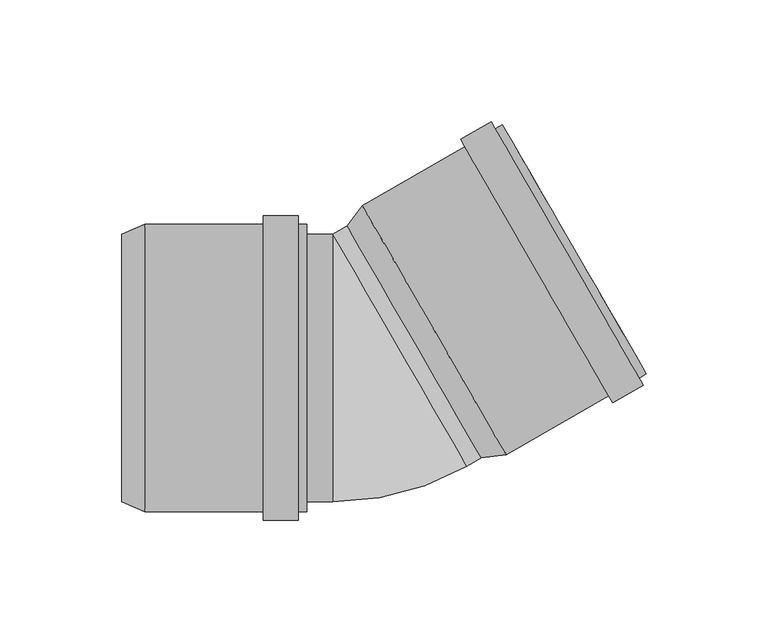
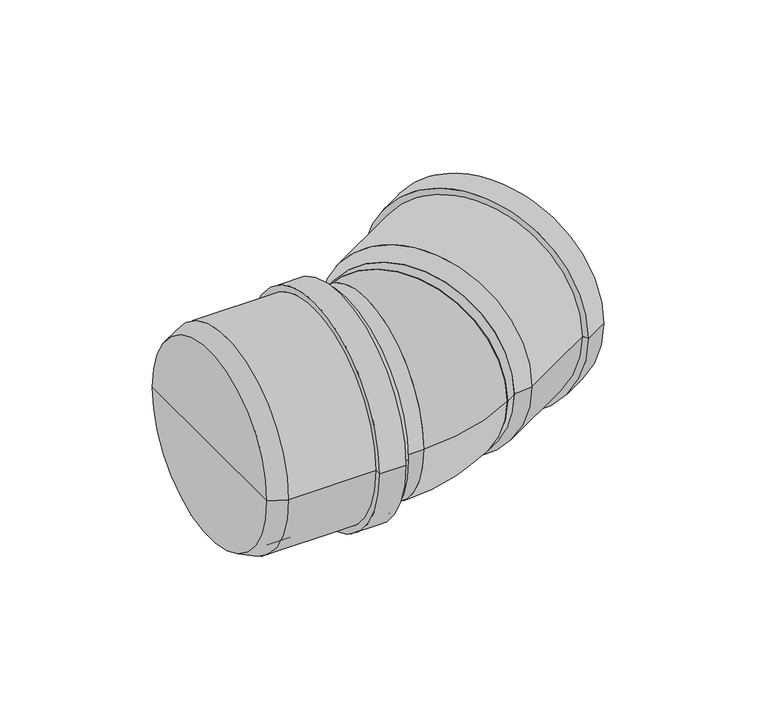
"""IFC4 building model written with IfcOpenShell, lengths in millimetres: pipe fitting geometry, pf_HTB : pf_HTB."""

from ifc_helpers import new_model, si_unit, point, frame, origin, origin_2d, place, context, project, spatial, polyline, circle_curve, ellipse_curve, trimmed, segment, composite_curve, outline, extrude, source, transform, mapped, element, save
from ifc_brep_helpers import plane_surface, cylinder_surface, revolved_surface, advanced_brep


def pipe_fitting_7f82ed09(model_context):
    return source(origin(), model_context, "Body", "SolidModel", [
        advanced_brep(
        [(46.1195462, -36.8813972, 0.0), (-8.8804538, 58.3813972, 0.0), (-2.7032125, 66.6821014, 0.0), (56.3967875, -35.6821014, 0.0), (18.6195462, 10.75, 0.0), (113.9874769, -2.4321014, 0.0), (54.8874769, 99.9321014, 0.0), (56.9374769, 96.3813972, 0.0), (111.9374769, 1.1186028, 0.0), (111.0429905, -4.1321014, 0.0), (51.9429905, 98.2321014, 0.0), (112.7429905, -7.0765877, 0.0), (50.2429905, 101.1765877, 0.0), (100.1856221, -14.3265877, 0.0), (37.6856221, 93.9265877, 0.0), (98.4856221, -11.3821014, 0.0), (39.3856221, 90.9821014, 0.0), (54.3467875, -32.1313972, 0.0), (-0.6532125, 63.1313972, 0.0), (26.8467875, 15.5, 0.0)],
        [
            (0, 1, circle_curve(frame((18.6195462, 10.75, 0.0), z_axis=(0.8660254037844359, 0.5000000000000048, 0.0), x_axis=(-0.5000000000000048, 0.8660254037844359, 0.0)), 55.0)),
            (1, 2),
            (2, 3, circle_curve(frame((26.8467875, 15.5, 0.0), z_axis=(-0.8660254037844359, -0.5000000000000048, 0.0), x_axis=(-0.5000000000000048, 0.8660254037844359, 0.0)), 59.1)),
            (3, 0),
            (1, 0, circle_curve(frame((18.6195462, 10.75, 0.0), z_axis=(0.8660254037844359, 0.5000000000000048, 0.0), x_axis=(-0.5000000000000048, 0.8660254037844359, 0.0)), 55.0)),
            (3, 2, circle_curve(frame((26.8467875, 15.5, 0.0), z_axis=(-0.8660254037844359, -0.5000000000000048, 0.0), x_axis=(-0.5000000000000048, 0.8660254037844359, 0.0)), 59.1)),
            (4, 1),
            (0, 4),
            (5, 6, circle_curve(frame((84.4374769, 48.75, 0.0), z_axis=(0.8660254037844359, 0.5000000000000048, 0.0), x_axis=(-0.5000000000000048, 0.8660254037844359, 0.0)), 59.1)),
            (6, 7),
            (7, 8, circle_curve(frame((84.4374769, 48.75, 0.0), z_axis=(-0.8660254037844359, -0.5000000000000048, 0.0), x_axis=(-0.5000000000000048, 0.8660254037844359, 0.0)), 55.0)),
            (8, 5),
            (6, 5, circle_curve(frame((84.4374769, 48.75, 0.0), z_axis=(0.8660254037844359, 0.5000000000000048, 0.0), x_axis=(-0.5000000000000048, 0.8660254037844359, 0.0)), 59.1)),
            (8, 7, circle_curve(frame((84.4374769, 48.75, 0.0), z_axis=(-0.8660254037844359, -0.5000000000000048, 0.0), x_axis=(-0.5000000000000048, 0.8660254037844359, 0.0)), 55.0)),
            (9, 10, circle_curve(frame((81.4929905, 47.05, 0.0), z_axis=(0.8660254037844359, 0.5000000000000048, 0.0), x_axis=(-0.5000000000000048, 0.8660254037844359, 0.0)), 59.1)),
            (10, 6),
            (5, 9),
            (10, 9, circle_curve(frame((81.4929905, 47.05, 0.0), z_axis=(0.8660254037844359, 0.5000000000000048, 0.0), x_axis=(-0.5000000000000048, 0.8660254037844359, 0.0)), 59.1)),
            (11, 12, circle_curve(frame((81.4929905, 47.05, 0.0), z_axis=(0.8660254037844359, 0.5000000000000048, 0.0), x_axis=(-0.5000000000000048, 0.8660254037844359, 0.0)), 62.5)),
            (12, 10),
            (9, 11),
            (12, 11, circle_curve(frame((81.4929905, 47.05, 0.0), z_axis=(0.8660254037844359, 0.5000000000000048, 0.0), x_axis=(-0.5000000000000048, 0.8660254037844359, 0.0)), 62.5)),
            (13, 14, circle_curve(frame((68.9356221, 39.8, 0.0), z_axis=(0.8660254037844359, 0.5000000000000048, 0.0), x_axis=(-0.5000000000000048, 0.8660254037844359, 0.0)), 62.5)),
            (14, 12),
            (11, 13),
            (14, 13, circle_curve(frame((68.9356221, 39.8, 0.0), z_axis=(0.8660254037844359, 0.5000000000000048, 0.0), x_axis=(-0.5000000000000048, 0.8660254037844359, 0.0)), 62.5)),
            (15, 16, circle_curve(frame((68.9356221, 39.8, 0.0), z_axis=(0.8660254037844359, 0.5000000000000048, 0.0), x_axis=(-0.5000000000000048, 0.8660254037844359, 0.0)), 59.1)),
            (16, 14),
            (13, 15),
            (16, 15, circle_curve(frame((68.9356221, 39.8, 0.0), z_axis=(0.8660254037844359, 0.5000000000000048, 0.0), x_axis=(-0.5000000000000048, 0.8660254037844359, 0.0)), 59.1)),
            (2, 16),
            (15, 3),
            (17, 18, circle_curve(frame((26.8467875, 15.5, 0.0), z_axis=(0.8660254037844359, 0.5000000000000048, 0.0), x_axis=(-0.5000000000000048, 0.8660254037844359, 0.0)), 55.0)),
            (18, 19),
            (19, 17),
            (18, 17, circle_curve(frame((26.8467875, 15.5, 0.0), z_axis=(0.8660254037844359, 0.5000000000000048, 0.0), x_axis=(-0.5000000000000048, 0.8660254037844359, 0.0)), 55.0)),
            (7, 18),
            (17, 8),
        ],
        [
            revolved_surface(polyline([(-2.7032125, 66.6821014, 0.0), (-8.8804538, 58.3813972, 0.0)]), (18.6195462, 10.75, 0.0), (-0.8660254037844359, -0.5000000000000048, 0.0)),
            plane_surface(frame((18.6195462, 10.75, 0.0), z_axis=(-0.8660254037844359, -0.5000000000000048, 0.0), x_axis=(-0.5000000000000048, 0.8660254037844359, 0.0))),
            plane_surface(frame((84.4374769, 48.75, 0.0), z_axis=(0.8660254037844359, 0.5000000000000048, 0.0), x_axis=(-0.5000000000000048, 0.8660254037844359, 0.0))),
            cylinder_surface(frame((18.6195462, 10.75, 0.0), z_axis=(-0.8660254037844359, -0.5000000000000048, 0.0), x_axis=(-0.5000000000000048, 0.8660254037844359, 0.0)), 59.1),
            plane_surface(frame((81.4929905, 47.05, 0.0), z_axis=(0.8660254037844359, 0.5000000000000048, 0.0), x_axis=(-0.5000000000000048, 0.8660254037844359, 0.0))),
            cylinder_surface(frame((18.6195462, 10.75, 0.0), z_axis=(-0.8660254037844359, -0.5000000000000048, 0.0), x_axis=(-0.5000000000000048, 0.8660254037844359, 0.0)), 62.5),
            plane_surface(frame((68.9356221, 39.8, 0.0), z_axis=(-0.8660254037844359, -0.5000000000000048, 0.0), x_axis=(-0.5000000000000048, 0.8660254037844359, 0.0))),
            plane_surface(frame((26.8467875, 15.5, 0.0), z_axis=(0.8660254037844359, 0.5000000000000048, 0.0), x_axis=(-0.5000000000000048, 0.8660254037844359, 0.0))),
            revolved_surface(polyline([(-0.6532124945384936, 63.1313971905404, 0.0), (56.93747690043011, 96.38139721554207, 0.0)]), (18.6195462, 10.75, 0.0), (-0.8660254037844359, -0.5000000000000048, 0.0)),
        ],
        [
            (0, [[1, 2, 3, 4]]),
            (0, [[5, -4, 6, -2]]),
            (1, [[7, -1, 8]]),
            (1, [[-8, -5, -7]]),
            (2, [[9, 10, 11, 12]]),
            (2, [[13, -12, 14, -10]]),
            (3, [[15, 16, -9, 17]]),
            (3, [[18, -17, -13, -16]]),
            (4, [[19, 20, -15, 21]]),
            (4, [[22, -21, -18, -20]]),
            (5, [[23, 24, -19, 25]]),
            (5, [[26, -25, -22, -24]]),
            (6, [[27, 28, -23, 29]]),
            (6, [[30, -29, -26, -28]]),
            (3, [[-3, 31, -27, 32]]),
            (3, [[-6, -32, -30, -31]]),
            (7, [[33, 34, 35]]),
            (7, [[36, -35, -34]]),
            (8, [[-11, 37, -33, 38]]),
            (8, [[-14, -38, -36, -37]]),
        ],
    ),
        advanced_brep(
        [(-101.5, -55.0, 0.0), (-101.5, 55.0, 0.0), (-92.0, 59.1, 0.0), (-92.0, -59.1, 0.0), (-101.5, 0.0, 0.0), (-25.5, -59.1, 0.0), (-25.5, 59.1, 0.0), (-25.5, 55.0, 0.0), (-25.5, -55.0, 0.0), (-28.9, -59.1, 0.0), (-28.9, 59.1, 0.0), (-28.9, -62.5, 0.0), (-28.9, 62.5, 0.0), (-43.4, -62.5, 0.0), (-43.4, 62.5, 0.0), (-43.4, -59.1, 0.0), (-43.4, 59.1, 0.0), (-92.0, -55.0, 0.0), (-92.0, 55.0, 0.0), (-92.0, 0.0, 0.0)],
        [
            (0, 1, circle_curve(frame((-101.5, 0.0, 0.0), z_axis=(1.0, 0.0, 0.0), x_axis=(0.0, 1.0, 0.0)), 55.0)),
            (1, 2),
            (2, 3, circle_curve(frame((-92.0, 0.0, 0.0), z_axis=(-1.0, 0.0, 0.0), x_axis=(0.0, 1.0, 0.0)), 59.1)),
            (3, 0),
            (1, 0, circle_curve(frame((-101.5, 0.0, 0.0), z_axis=(1.0, 0.0, 0.0), x_axis=(0.0, 1.0, 0.0)), 55.0)),
            (3, 2, circle_curve(frame((-92.0, 0.0, 0.0), z_axis=(-1.0, 0.0, 0.0), x_axis=(0.0, 1.0, 0.0)), 59.1)),
            (4, 1),
            (0, 4),
            (5, 6, circle_curve(frame((-25.5, 0.0, 0.0), z_axis=(1.0, 0.0, 0.0), x_axis=(0.0, 1.0, 0.0)), 59.1)),
            (6, 7),
            (7, 8, circle_curve(frame((-25.5, 0.0, 0.0), z_axis=(-1.0, 0.0, 0.0), x_axis=(0.0, 1.0, 0.0)), 55.0)),
            (8, 5),
            (6, 5, circle_curve(frame((-25.5, 0.0, 0.0), z_axis=(1.0, 0.0, 0.0), x_axis=(0.0, 1.0, 0.0)), 59.1)),
            (8, 7, circle_curve(frame((-25.5, 0.0, 0.0), z_axis=(-1.0, 0.0, 0.0), x_axis=(0.0, 1.0, 0.0)), 55.0)),
            (9, 10, circle_curve(frame((-28.9, 0.0, 0.0), z_axis=(1.0, 0.0, 0.0), x_axis=(0.0, 1.0, 0.0)), 59.1)),
            (10, 6),
            (5, 9),
            (10, 9, circle_curve(frame((-28.9, 0.0, 0.0), z_axis=(1.0, 0.0, 0.0), x_axis=(0.0, 1.0, 0.0)), 59.1)),
            (11, 12, circle_curve(frame((-28.9, 0.0, 0.0), z_axis=(1.0, 0.0, 0.0), x_axis=(0.0, 1.0, 0.0)), 62.5)),
            (12, 10),
            (9, 11),
            (12, 11, circle_curve(frame((-28.9, 0.0, 0.0), z_axis=(1.0, 0.0, 0.0), x_axis=(0.0, 1.0, 0.0)), 62.5)),
            (13, 14, circle_curve(frame((-43.4, 0.0, 0.0), z_axis=(1.0, 0.0, 0.0), x_axis=(0.0, 1.0, 0.0)), 62.5)),
            (14, 12),
            (11, 13),
            (14, 13, circle_curve(frame((-43.4, 0.0, 0.0), z_axis=(1.0, 0.0, 0.0), x_axis=(0.0, 1.0, 0.0)), 62.5)),
            (15, 16, circle_curve(frame((-43.4, 0.0, 0.0), z_axis=(1.0, 0.0, 0.0), x_axis=(0.0, 1.0, 0.0)), 59.1)),
            (16, 14),
            (13, 15),
            (16, 15, circle_curve(frame((-43.4, 0.0, 0.0), z_axis=(1.0, 0.0, 0.0), x_axis=(0.0, 1.0, 0.0)), 59.1)),
            (2, 16),
            (15, 3),
            (17, 18, circle_curve(frame((-92.0, 0.0, 0.0), z_axis=(1.0, 0.0, 0.0), x_axis=(0.0, 1.0, 0.0)), 55.0)),
            (18, 19),
            (19, 17),
            (18, 17, circle_curve(frame((-92.0, 0.0, 0.0), z_axis=(1.0, 0.0, 0.0), x_axis=(0.0, 1.0, 0.0)), 55.0)),
            (7, 18),
            (17, 8),
        ],
        [
            revolved_surface(polyline([(-92.0, 59.1, 0.0), (-101.5, 55.0, 0.0)]), (-101.5, 0.0, 0.0), (-1.0, 0.0, 0.0)),
            plane_surface(frame((-101.5, 0.0, 0.0), z_axis=(-1.0, 0.0, 0.0), x_axis=(0.0, 1.0, 0.0))),
            plane_surface(frame((-25.5, 0.0, 0.0), z_axis=(1.0, 0.0, 0.0), x_axis=(0.0, 1.0, 0.0))),
            cylinder_surface(frame((-101.5, 0.0, 0.0), z_axis=(-1.0, 0.0, 0.0), x_axis=(0.0, 1.0, 0.0)), 59.1),
            plane_surface(frame((-28.9, 0.0, 0.0), z_axis=(1.0, 0.0, 0.0), x_axis=(0.0, 1.0, 0.0))),
            cylinder_surface(frame((-101.5, 0.0, 0.0), z_axis=(-1.0, 0.0, 0.0), x_axis=(0.0, 1.0, 0.0)), 62.5),
            plane_surface(frame((-43.4, 0.0, 0.0), z_axis=(-1.0, 0.0, 0.0), x_axis=(0.0, 1.0, 0.0))),
            plane_surface(frame((-92.0, 0.0, 0.0), z_axis=(1.0, 0.0, 0.0), x_axis=(0.0, 1.0, 0.0))),
            revolved_surface(polyline([(-92.0, 55.0, 0.0), (-25.5, 55.0, 0.0)]), (-101.5, 0.0, 0.0), (-1.0, 0.0, 0.0)),
        ],
        [
            (0, [[1, 2, 3, 4]]),
            (0, [[5, -4, 6, -2]]),
            (1, [[7, -1, 8]]),
            (1, [[-8, -5, -7]]),
            (2, [[9, 10, 11, 12]]),
            (2, [[13, -12, 14, -10]]),
            (3, [[15, 16, -9, 17]]),
            (3, [[18, -17, -13, -16]]),
            (4, [[19, 20, -15, 21]]),
            (4, [[22, -21, -18, -20]]),
            (5, [[23, 24, -19, 25]]),
            (5, [[26, -25, -22, -24]]),
            (6, [[27, 28, -23, 29]]),
            (6, [[30, -29, -26, -28]]),
            (3, [[-3, 31, -27, 32]]),
            (3, [[-6, -32, -30, -31]]),
            (7, [[33, 34, 35]]),
            (7, [[36, -35, -34]]),
            (8, [[-11, 37, -33, 38]]),
            (8, [[-14, -38, -36, -37]]),
        ],
    ),
        extrude(outline(composite_curve([segment(trimmed(circle_curve(origin_2d(), 55.0), [point((0.0, -55.0))], [point((0.0, 55.0))], False, "CARTESIAN"), True, "CONTINUOUS"), segment(trimmed(circle_curve(origin_2d(), 55.0), [point((0.0, 55.0))], [point((0.0, -55.0))], False, "CARTESIAN"), True, "CONTINUOUS")], self_intersect=False)), frame((12.7627944, 7.3686028, 0.0), z_axis=(0.8660254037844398, 0.49999999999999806, 0.0), x_axis=(0.0, 0.0, 1.0)), (0.0, 0.0, 1.0), 16.2627944),
        extrude(outline(composite_curve([segment(trimmed(circle_curve(origin_2d(), 55.0), [point((-55.0, 0.0))], [point((55.0, 0.0))], False, "CARTESIAN"), True, "CONTINUOUS"), segment(trimmed(circle_curve(origin_2d(), 55.0), [point((55.0, 0.0))], [point((-55.0, 0.0))], False, "CARTESIAN"), True, "CONTINUOUS")], self_intersect=False)), frame((-92.0, 0.0, 0.0), z_axis=(1.0, 0.0, 0.0), x_axis=(0.0, 1.0, 0.0)), (0.0, 0.0, 1.0), 77.2627944),
        advanced_brep(
        [(-14.7372056, -55.0, 0.0), (-14.7372056, 55.0, 0.0), (40.2627944, -40.2627944, 0.0)],
        [
            (0, 1, circle_curve(frame((-14.7372056, 0.0, 0.0), z_axis=(-1.0, 0.0, 0.0), x_axis=(0.0, 1.0, 0.0)), 55.0)),
            (1, 0, circle_curve(frame((-14.7372056, 0.0, 0.0), z_axis=(-1.0, 0.0, 0.0), x_axis=(0.0, 1.0, 0.0)), 55.0)),
            (2, 1, circle_curve(frame((12.7627944, 7.3686028, 0.0), z_axis=(0.8660254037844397, 0.49999999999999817, 0.0), x_axis=(-0.49999999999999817, 0.8660254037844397, 0.0)), 55.0)),
            (1, 2, circle_curve(frame((12.7627944, 7.3686028, 0.0), z_axis=(0.8660254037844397, 0.49999999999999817, 0.0), x_axis=(-0.49999999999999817, 0.8660254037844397, 0.0)), 55.0)),
            (2, 0, circle_curve(frame((-14.7372056, 55.0, 0.0), z_axis=(0.0, 0.0, -1.0), x_axis=(0.0, -1.0, 0.0)), 110.0)),
        ],
        [
            plane_surface(frame((-14.7372056, 55.0, -14.8), z_axis=(-1.0, 0.0, 0.0), x_axis=(0.0, -1.0, 0.0))),
            plane_surface(frame((-14.7372056, 55.0, -14.8), z_axis=(0.8660254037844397, 0.4999999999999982, 0.0), x_axis=(0.4999999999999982, -0.8660254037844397, 0.0))),
            revolved_surface(trimmed(ellipse_curve(frame((-14.7372056, 0.0, 0.0), z_axis=(1.0, 0.0, 0.0), x_axis=(0.0, 1.0, 0.0)), 55.0, 55.0), [point((-14.7372056, -55.0, 0.0))], [point((-14.7372056, 55.0, 0.0))], True, "CARTESIAN"), (-14.7372056, 55.0, -14.8), (0.0, 0.0, -1.0)),
            revolved_surface(trimmed(ellipse_curve(frame((-14.7372056, 0.0, 0.0), z_axis=(1.0, 0.0, 0.0), x_axis=(0.0, 1.0, 0.0)), 55.0, 55.0), [point((-14.7372056, 55.0, 0.0))], [point((-14.7372056, -55.0, 0.0))], True, "CARTESIAN"), (-14.7372056, 55.0, -14.8), (0.0, 0.0, -1.0)),
        ],
        [
            (0, [[1, 2]]),
            (1, [[3, 4]]),
            (2, [[5, -2, -3]]),
            (3, [[-1, -5, -4]]),
        ],
    ),
    ])


if __name__ == "__main__":
    model = new_model("IFC4")
    model_context = context("Model", 3, world=origin())
    ifc_project = project(units=[si_unit("LENGTHUNIT", "METRE", prefix="MILLI")], contexts=[model_context])
    site = spatial("IfcSite", under=ifc_project)
    building = spatial("IfcBuilding", under=site)
    placement = place(None, origin())
    pipe_fitting_shape = pipe_fitting_7f82ed09(model_context)
    element("IfcPipeFitting", 1, ObjectType="pf_HTB : pf_HTB", at=placement, inside=building, context=model_context, shape_type="MappedRepresentation", body=[
        mapped(pipe_fitting_shape, transform((0.0, 0.0, 0.0), x_axis=(1.0, 0.0, 0.0), y_axis=(0.0, 1.0, 0.0), z_axis=(0.0, 0.0, 1.0))),
    ])
    save(model, "model.ifc")
